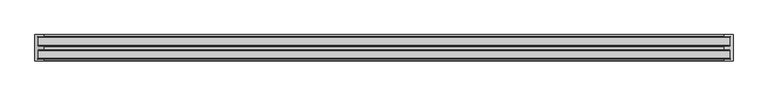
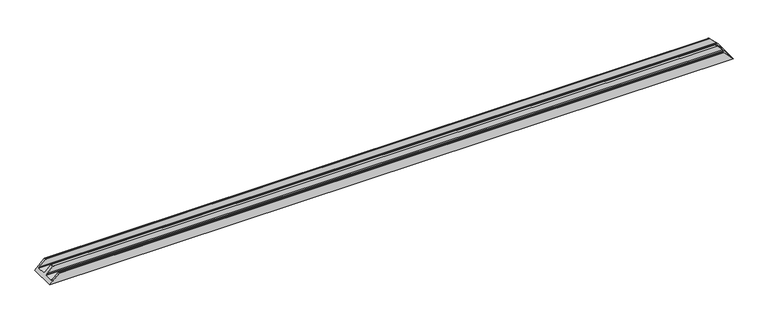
"""IFC4 building model written with IfcOpenShell, lengths in millimetres: proxy geometry, Weiku - Montante - Caixilho duplo 02.3.02.409 : Weiku - Montante - Caixilho duplo 02.3.02.409."""

from ifc_helpers import new_model, si_unit, frame, origin, place, context, project, spatial, ellipse_curve, source, transform, mapped, element, save
from ifc_brep_helpers import plane_surface, cylinder_surface, advanced_brep


def generic_models_2ede7d6d(model_context):
    return source(origin(), model_context, "Body", "AdvancedBrep", [
        advanced_brep(
        [(-2038.2, 9.8, 18.2), (-2000.5, 9.8, 55.9), (2000.5, 9.8, 55.9), (2038.2, 9.8, 18.2), (-2040.7000079, 63.85, 15.6999921), (-2040.7000079, 15.05, 15.6999921), (2040.7000079, 15.05, 15.6999921), (2040.7000079, 63.85, 15.6999921), (-2000.5000055, 69.1, 55.8999945), (-2032.5700642, 69.1, 23.8299358), (2032.5700642, 69.1, 23.8299358), (2000.5000055, 69.1, 55.8999945), (-2000.0000055, 86.65, 56.3999945), (-2000.0000055, 69.6, 56.3999945), (2000.0000055, 69.6, 56.3999945), (2000.0000055, 86.65, 56.3999945), (-2032.6236827, 87.15, 23.7763173), (-2000.5000055, 87.15, 55.8999945), (2000.5000055, 87.15, 55.8999945), (2032.6236827, 87.15, 23.7763173), (-2056.4, 156.2000166, 0.0), (2056.4, 156.2000166, 0.0), (2056.4, 0.0, 0.0), (-2056.4, 0.0, 0.0), (2000.5, 0.0, 55.9), (-2000.5, 0.0, 55.9), (-2000.0, 9.3, 56.4), (-2000.0, 0.5, 56.4), (2000.0, 0.5, 56.4), (2000.0, 9.3, 56.4), (-2038.2, 15.05, 18.2), (-2038.2, 63.85, 18.2), (-2038.2000178, 92.3500166, 18.1999822), (-2040.7000079, 92.3500166, 15.6999921), (-2040.7000079, 141.1500166, 15.6999921), (-2038.2, 141.1500166, 18.2), (-2038.2, 146.4000166, 18.2), (-2000.5, 146.4000166, 55.9), (-2000.0, 146.9000166, 56.4), (-2000.0, 155.7000166, 56.4), (-2000.5, 156.2000166, 55.9), (2000.5, 156.2000166, 55.9), (2000.0, 155.7000166, 56.4), (2000.0, 146.9000166, 56.4), (2000.5, 146.4000166, 55.9), (2038.2, 146.4000166, 18.2), (2038.2, 141.1500166, 18.2), (2040.7000079, 141.1500166, 15.6999921), (2040.7000079, 92.3500166, 15.6999921), (2038.2000178, 92.3500166, 18.1999822), (2038.2, 63.85, 18.2), (2038.2, 15.05, 18.2)],
        [
            (0, 1),
            (1, 2),
            (2, 3),
            (3, 0),
            (4, 5),
            (5, 6),
            (6, 7),
            (7, 4),
            (8, 9),
            (9, 10),
            (10, 11),
            (11, 8),
            (12, 13),
            (13, 14),
            (14, 15),
            (15, 12),
            (16, 17),
            (17, 18),
            (18, 19),
            (19, 16),
            (20, 21),
            (21, 22),
            (22, 23),
            (23, 20),
            (22, 24),
            (24, 25),
            (25, 23),
            (26, 27),
            (27, 28),
            (28, 29),
            (29, 26),
            (0, 30),
            (30, 5),
            (4, 31),
            (31, 9),
            (8, 13, ellipse_curve(frame((-2000.5000055, 69.6, 55.8999945), z_axis=(-0.7071067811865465, 0.0, 0.7071067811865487), x_axis=(-0.7071067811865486, 0.0, -0.7071067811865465)), 0.7071068, 0.5)),
            (12, 17, ellipse_curve(frame((-2000.5000055, 86.65, 55.8999945), z_axis=(-0.7071067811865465, 0.0, 0.7071067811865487), x_axis=(-0.7071067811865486, 0.0, -0.7071067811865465)), 0.7071068, 0.5)),
            (16, 32),
            (32, 33),
            (33, 34),
            (34, 35),
            (35, 36),
            (36, 37),
            (37, 38, ellipse_curve(frame((-2000.5, 146.9000166, 55.9), z_axis=(-0.7071067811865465, 0.0, 0.7071067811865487), x_axis=(-0.7071067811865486, 0.0, -0.7071067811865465)), 0.7071068, 0.5)),
            (38, 39),
            (39, 40, ellipse_curve(frame((-2000.5, 155.7000166, 55.9), z_axis=(-0.7071067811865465, 0.0, 0.7071067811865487), x_axis=(-0.7071067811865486, 0.0, -0.7071067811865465)), 0.7071068, 0.5)),
            (40, 20),
            (25, 27, ellipse_curve(frame((-2000.5, 0.5, 55.9), z_axis=(-0.7071067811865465, 0.0, 0.7071067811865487), x_axis=(-0.7071067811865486, 0.0, -0.7071067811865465)), 0.7071068, 0.5)),
            (26, 1, ellipse_curve(frame((-2000.5, 9.3, 55.9), z_axis=(-0.7071067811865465, 0.0, 0.7071067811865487), x_axis=(-0.7071067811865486, 0.0, -0.7071067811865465)), 0.7071068, 0.5)),
            (2, 29, ellipse_curve(frame((2000.5, 9.3, 55.9), z_axis=(0.7071067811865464, 0.0, 0.7071067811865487), x_axis=(-0.7071067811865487, 0.0, 0.7071067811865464)), 0.7071068, 0.5)),
            (28, 24, ellipse_curve(frame((2000.5, 0.5, 55.9), z_axis=(0.7071067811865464, 0.0, 0.7071067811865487), x_axis=(-0.7071067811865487, 0.0, 0.7071067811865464)), 0.7071068, 0.5)),
            (21, 41),
            (41, 42, ellipse_curve(frame((2000.5, 155.7000166, 55.9), z_axis=(0.7071067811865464, 0.0, 0.7071067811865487), x_axis=(-0.7071067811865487, 0.0, 0.7071067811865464)), 0.7071068, 0.5)),
            (42, 43),
            (43, 44, ellipse_curve(frame((2000.5, 146.9000166, 55.9), z_axis=(0.7071067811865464, 0.0, 0.7071067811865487), x_axis=(-0.7071067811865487, 0.0, 0.7071067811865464)), 0.7071068, 0.5)),
            (44, 45),
            (45, 46),
            (46, 47),
            (47, 48),
            (48, 49),
            (49, 19),
            (18, 15, ellipse_curve(frame((2000.5000055, 86.65, 55.8999945), z_axis=(0.7071067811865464, 0.0, 0.7071067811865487), x_axis=(-0.7071067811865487, 0.0, 0.7071067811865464)), 0.7071068, 0.5)),
            (14, 11, ellipse_curve(frame((2000.5000055, 69.6, 55.8999945), z_axis=(0.7071067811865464, 0.0, 0.7071067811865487), x_axis=(-0.7071067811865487, 0.0, 0.7071067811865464)), 0.7071068, 0.5)),
            (10, 50),
            (50, 7),
            (6, 51),
            (51, 3),
            (51, 30),
            (50, 31),
            (49, 32),
            (48, 33),
            (47, 34),
            (46, 35),
            (45, 36),
            (44, 37),
            (38, 43),
            (42, 39),
            (41, 40),
        ],
        [
            plane_surface(frame((-2056.4, 9.8, 55.9), z_axis=(0.0, 1.0, 0.0), x_axis=(1.0, 0.0, 0.0))),
            plane_surface(frame((-2056.4, 15.05, 15.6999921), z_axis=(0.0, 0.0, 1.0), x_axis=(1.0, 0.0, 0.0))),
            plane_surface(frame((-2056.4, 69.1, 23.8299358), z_axis=(0.0, -1.0, 0.0), x_axis=(1.0, 0.0, 0.0))),
            plane_surface(frame((-2056.4, 69.6, 56.3999945), z_axis=(0.0, 0.0, 1.0), x_axis=(1.0, 0.0, 0.0))),
            plane_surface(frame((-2056.4, 87.15, 55.8999945), z_axis=(0.0, 1.0, 0.0), x_axis=(1.0, 0.0, 0.0))),
            plane_surface(frame((-2056.4, 156.2000166, 0.0), z_axis=(0.0, 0.0, -1.0), x_axis=(1.0, 0.0, 0.0))),
            plane_surface(frame((-2056.4, 0.0, 0.0), z_axis=(0.0, -1.0, 0.0), x_axis=(1.0, 0.0, 0.0))),
            plane_surface(frame((-2056.4, 0.5, 56.4), z_axis=(0.0, 0.0, 1.0), x_axis=(1.0, 0.0, 0.0))),
            plane_surface(frame((-2056.4, 0.0, 0.0), z_axis=(-0.7071067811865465, 0.0, 0.7071067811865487), x_axis=(0.0, 1.0, 0.0))),
            plane_surface(frame((1996.4, 0.0, 60.0), z_axis=(0.7071067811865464, 0.0, 0.7071067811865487), x_axis=(0.0, 1.0, 0.0))),
            plane_surface(frame((-2056.4, 9.8, 18.2), z_axis=(0.0, 0.0, 1.0), x_axis=(1.0, 0.0, 0.0))),
            plane_surface(frame((-2056.4, 15.05, 18.2), z_axis=(0.0, 1.0, 0.0), x_axis=(1.0, 0.0, 0.0))),
            plane_surface(frame((-2056.4, 63.85, 15.6999921), z_axis=(0.0, -1.0, 0.0), x_axis=(1.0, 0.0, 0.0))),
            plane_surface(frame((-2056.4, 63.85, 18.2), z_axis=(0.0, -0.7313537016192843, 0.6819983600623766), x_axis=(1.0, 0.0, 0.0))),
            cylinder_surface(frame((-2056.4, 86.65, 55.8999945), z_axis=(-1.0, 0.0, 0.0), x_axis=(0.0, 1.0, 0.0)), 0.5),
            cylinder_surface(frame((-2056.4, 0.5, 55.9), z_axis=(-1.0, 0.0, 0.0), x_axis=(0.0, 1.0, 0.0)), 0.5),
            plane_surface(frame((-2056.4, 87.15, 23.7763173), z_axis=(0.0, 0.7313537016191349, 0.6819983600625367), x_axis=(1.0, 0.0, 0.0))),
            plane_surface(frame((-2056.4, 92.3500166, 18.1999822), z_axis=(0.0, 1.0, 0.0), x_axis=(1.0, 0.0, 0.0))),
            plane_surface(frame((-2056.4, 92.3500166, 15.6999921), z_axis=(0.0, 0.0, 1.0), x_axis=(1.0, 0.0, 0.0))),
            plane_surface(frame((-2056.4, 141.1500166, 15.6999921), z_axis=(0.0, -1.0, 0.0), x_axis=(1.0, 0.0, 0.0))),
            plane_surface(frame((-2056.4, 141.1500166, 18.2), z_axis=(0.0, 0.0, 1.0), x_axis=(1.0, 0.0, 0.0))),
            plane_surface(frame((-2056.4, 146.4000166, 18.2), z_axis=(0.0, -1.0, 0.0), x_axis=(1.0, 0.0, 0.0))),
            plane_surface(frame((-2056.4, 146.9000166, 56.4), z_axis=(0.0, 0.0, 1.0), x_axis=(1.0, 0.0, 0.0))),
            cylinder_surface(frame((-2056.4, 155.7000166, 55.9), z_axis=(-1.0, 0.0, 0.0), x_axis=(0.0, -1.0, 0.0)), 0.5),
            plane_surface(frame((-2056.4, 156.2000166, 55.9), z_axis=(0.0, 1.0, 0.0), x_axis=(1.0, 0.0, 0.0))),
            cylinder_surface(frame((-2056.4, 9.3, 55.9), z_axis=(-1.0, 0.0, 0.0), x_axis=(0.0, 1.0, 0.0)), 0.5),
            cylinder_surface(frame((-2056.4, 69.6, 55.8999945), z_axis=(-1.0, 0.0, 0.0), x_axis=(0.0, 1.0, 0.0)), 0.5),
            cylinder_surface(frame((-2056.4, 146.9000166, 55.9), z_axis=(-1.0, 0.0, 0.0), x_axis=(0.0, 1.0, 0.0)), 0.5),
        ],
        [
            (0, [[1, 2, 3, 4]]),
            (1, [[5, 6, 7, 8]]),
            (2, [[9, 10, 11, 12]]),
            (3, [[13, 14, 15, 16]]),
            (4, [[17, 18, 19, 20]]),
            (5, [[21, 22, 23, 24]]),
            (6, [[-23, 25, 26, 27]]),
            (7, [[28, 29, 30, 31]]),
            (8, [[-1, 32, 33, -5, 34, 35, -9, 36, -13, 37, -17, 38, 39, 40, 41, 42, 43, 44, 45, 46, 47, -24, -27, 48, -28, 49]]),
            (9, [[-3, 50, -30, 51, -25, -22, 52, 53, 54, 55, 56, 57, 58, 59, 60, 61, -19, 62, -15, 63, -11, 64, 65, -7, 66, 67]]),
            (10, [[-32, -4, -67, 68]]),
            (11, [[-33, -68, -66, -6]]),
            (12, [[-34, -8, -65, 69]]),
            (13, [[-35, -69, -64, -10]]),
            (14, [[-37, -16, -62, -18]]),
            (15, [[-48, -26, -51, -29]]),
            (16, [[-38, -20, -61, 70]]),
            (17, [[-39, -70, -60, 71]]),
            (18, [[-40, -71, -59, 72]]),
            (19, [[-41, -72, -58, 73]]),
            (20, [[-42, -73, -57, 74]]),
            (21, [[-43, -74, -56, 75]]),
            (22, [[-45, 76, -54, 77]]),
            (23, [[-46, -77, -53, 78]]),
            (24, [[-21, -47, -78, -52]]),
            (25, [[-49, -31, -50, -2]]),
            (26, [[-36, -12, -63, -14]]),
            (27, [[-44, -75, -55, -76]]),
        ],
    ),
    ])


if __name__ == "__main__":
    model = new_model("IFC4")
    model_context = context("Model", 3, world=origin())
    ifc_project = project(units=[si_unit("LENGTHUNIT", "METRE", prefix="MILLI")], contexts=[model_context])
    site = spatial("IfcSite", under=ifc_project)
    building = spatial("IfcBuilding", under=site)
    placement = place(None, origin())
    generic_models_shape = generic_models_2ede7d6d(model_context)
    element("IfcBuildingElementProxy", 1, Name="Weiku - Montante - Caixilho duplo 02.3.02.409 : Weiku - Montante - Caixilho duplo 02.3.02.409", ObjectType="Weiku - Montante - Caixilho duplo 02.3.02.409 : Weiku - Montante - Caixilho duplo 02.3.02.409", at=placement, inside=building, context=model_context, shape_type="MappedRepresentation", body=[
        mapped(generic_models_shape, transform((0.0, 0.0, 0.0), x_axis=(1.0, 0.0, 0.0), y_axis=(0.0, 1.0, 0.0), z_axis=(0.0, 0.0, 1.0))),
    ])
    save(model, "model.ifc")
